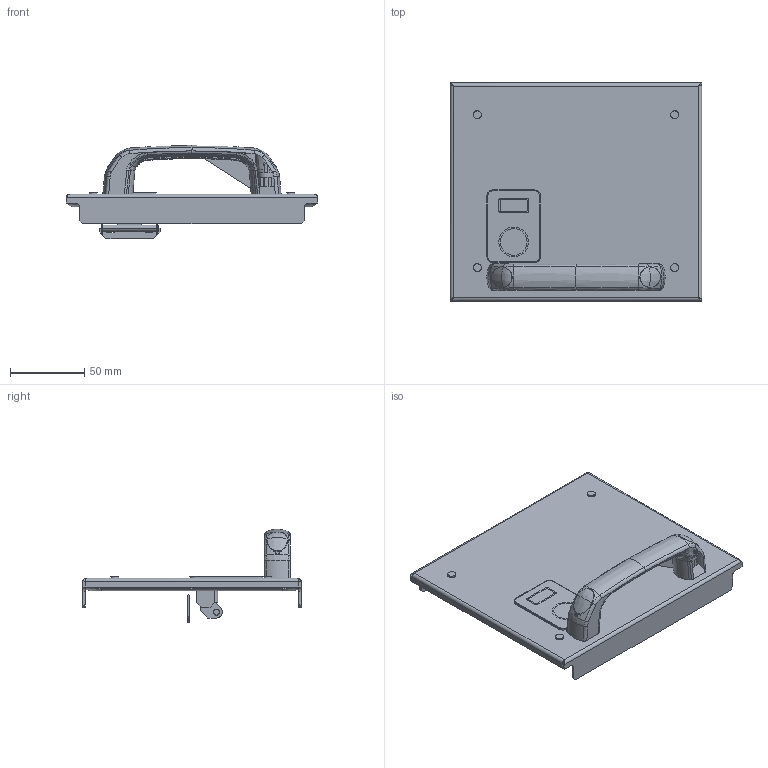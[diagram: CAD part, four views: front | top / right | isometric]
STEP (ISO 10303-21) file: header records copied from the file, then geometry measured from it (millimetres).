
FILE_DESCRIPTION(('CAx-IF Rec.Pracs.---Model Styling and Organization---1.2---2011-12-15','CAx-IF Rec.Pracs.---Geometric and Assembly Validation Properties---4.1---2014-06-16','CAx-IF Rec.Pracs.---PMI Polyline Presentation---2.0---2013-05-24'),'2;1');
FILE_NAME('R5M2W3M3BF.stp','2021-05-05T12:16:07+03:00',(''),(''),'STEP Interface 4.4 by CT CoreTechnologie','3D_Evolution4.4 by CT CoreTechnologie','');
FILE_SCHEMA(('AUTOMOTIVE_DESIGN { 1 0 10303 214 1 1 1 1 }'));
Length unit declared in the file: millimetre
Products named in the file (16): R5M2W3M3BF; 5-GOST 11371-78 (DIN 125) PA 6.6_5-GOST 11371-78 (DIN 125) PA 6.6; RB.1215.01.00.0 ÑÁ_-01; RB.1503.00.07.0_-00; RB.1503.00.08.0_'­ ª«¥¥­­ ï'; RB.1215.01.01.0_-01; RB.1503.00.03.0_123; RB.1503.00.04.0_123; RB.1503.00.05.0_123; PF 7x14 RAMmcc 2.0_1x3; AC00C061_AC00C061; Ì6õ12-A5100231_straight; RB.1503.00.06.0_-00; 4.444.001; PR.DT477.100.02; PR.DT477.100.01
Assembly tree (18 placements, depth 3):
  R5M2W3M3BF
    5-GOST 11371-78 (DIN 125) PA 6.6_5-GOST 11371-78 (DIN 125) PA 6.6  x4
    RB.1215.01.00.0 ÑÁ_-01
      RB.1503.00.07.0_-00
      RB.1215.01.01.0_-01
      RB.1503.00.03.0_123
      RB.1503.00.04.0_123
      RB.1503.00.05.0_123
      PF 7x14 RAMmcc 2.0_1x3
      AC00C061_AC00C061
      Ì6õ12-A5100231_straight
      RB.1503.00.06.0_-00
    4.444.001
      PR.DT477.100.02  x2
      PR.DT477.100.01
  RB.1503.00.08.0_'­ ª«¥¥­­ ï'
Bounding box: 169.5 x 147 x 62.85 mm (x, y, z)
Surface area: 113460.4 mm2 (no closed solid volume)
Topology: 0 solids, 24 shells, 1132 faces, 2745 edges, 1662 vertices
Faces by surface type: bspline 596, plane 385, cylinder 151
Entity records: 46965 total; most frequent: CARTESIAN_POINT 23688, ORIENTED_EDGE 4980, DIRECTION 4435, EDGE_CURVE 2490, AXIS2_PLACEMENT_3D 1678, VERTEX_POINT 1513, CIRCLE 1192, VECTOR 1079
